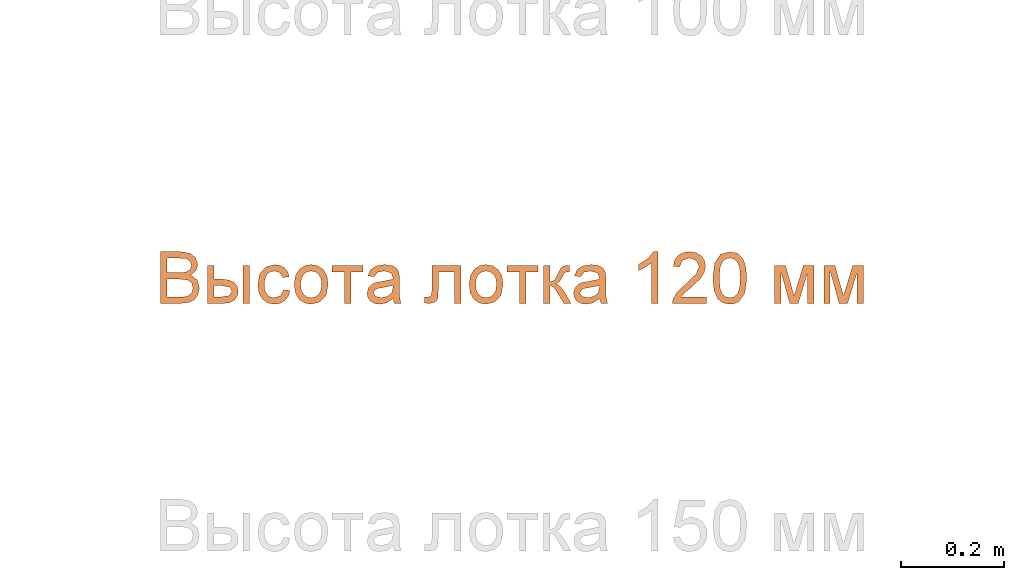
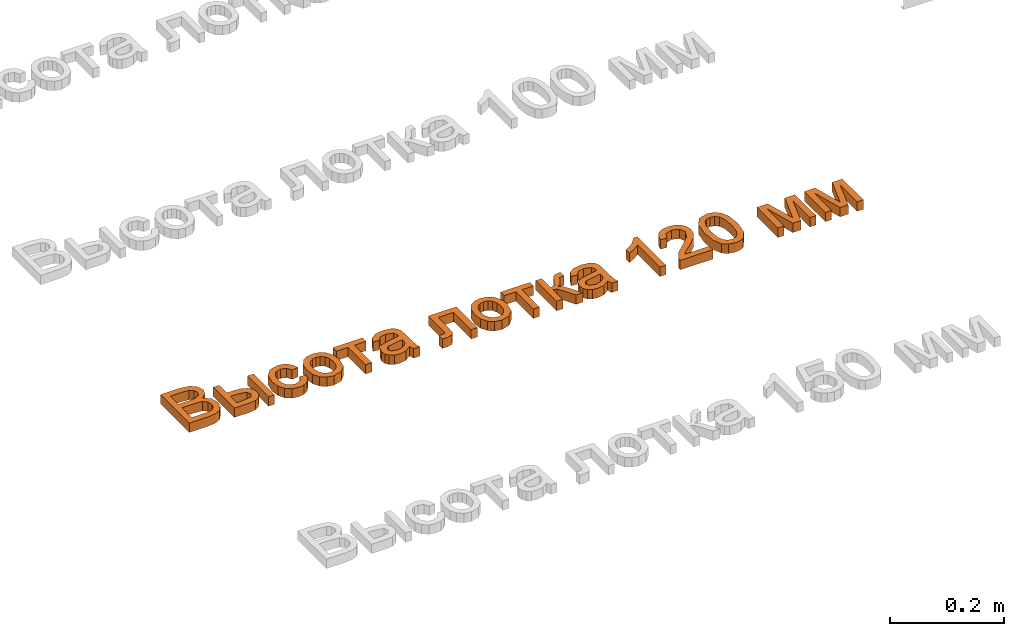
# One storey, part 17 of 71: 1 proxy.
"""IFC2X3 building model written with IfcOpenShell, lengths in millimetres."""

from ifc_helpers import new_model, entity, si_unit, converted_unit, derived_unit, direction, frame, frame_2d, origin, place, context, subcontext, project, spatial, polyline, rectangle, outline, extrude, element, save


model = new_model("IFC2X3")

# Units and contexts
model_context = context("Model", 3, precision=0.01, world=origin(), true_north=direction((6.12303176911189e-17, 1.0)))
body_context = subcontext(model_context, "Body", "Model", "MODEL_VIEW")
ifc_project = project(units=[si_unit("LENGTHUNIT", "METRE", prefix="MILLI"), si_unit("AREAUNIT", "SQUARE_METRE"), si_unit("VOLUMEUNIT", "CUBIC_METRE"), converted_unit("PLANEANGLEUNIT", "DEGREE", entity("IfcRatioMeasure", 0.0174532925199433), si_unit("PLANEANGLEUNIT", "RADIAN"), dimensions=[0, 0, 0, 0, 0, 0, 0]), si_unit("MASSUNIT", "GRAM", prefix="KILO"), derived_unit("MASSDENSITYUNIT", [(si_unit("MASSUNIT", "GRAM", prefix="KILO"), 1), (si_unit("LENGTHUNIT", "METRE"), -3)]), si_unit("TIMEUNIT", "SECOND"), si_unit("FREQUENCYUNIT", "HERTZ"), si_unit("THERMODYNAMICTEMPERATUREUNIT", "DEGREE_CELSIUS"), derived_unit("THERMALTRANSMITTANCEUNIT", [(si_unit("MASSUNIT", "GRAM", prefix="KILO"), 1), (si_unit("THERMODYNAMICTEMPERATUREUNIT", "KELVIN"), -1), (si_unit("TIMEUNIT", "SECOND"), -3)]), derived_unit("VOLUMETRICFLOWRATEUNIT", [(si_unit("LENGTHUNIT", "METRE"), 3), (si_unit("TIMEUNIT", "SECOND"), -1)]), si_unit("ELECTRICCURRENTUNIT", "AMPERE"), si_unit("ELECTRICVOLTAGEUNIT", "VOLT"), si_unit("POWERUNIT", "WATT"), si_unit("FORCEUNIT", "NEWTON", prefix="KILO"), si_unit("ILLUMINANCEUNIT", "LUX"), si_unit("LUMINOUSFLUXUNIT", "LUMEN"), si_unit("LUMINOUSINTENSITYUNIT", "CANDELA"), derived_unit("USERDEFINED", [(si_unit("MASSUNIT", "GRAM", prefix="KILO"), -1), (si_unit("LENGTHUNIT", "METRE"), -2), (si_unit("TIMEUNIT", "SECOND"), 3), (si_unit("LUMINOUSFLUXUNIT", "LUMEN"), 1)]), derived_unit("LINEARVELOCITYUNIT", [(si_unit("LENGTHUNIT", "METRE"), 1), (si_unit("TIMEUNIT", "SECOND"), -1)]), si_unit("PRESSUREUNIT", "PASCAL"), derived_unit("USERDEFINED", [(si_unit("LENGTHUNIT", "METRE"), -2), (si_unit("MASSUNIT", "GRAM", prefix="KILO"), 1), (si_unit("TIMEUNIT", "SECOND"), -2)])], contexts=[model_context])

# Site, building, storey
site_placement = place(None, origin())
site = spatial("IfcSite", under=ifc_project, at=site_placement, Name="Default", CompositionType="ELEMENT")
building_placement = place(site_placement, origin())
building = spatial("IfcBuilding", under=site, at=building_placement, Name="Наименование здания", CompositionType="ELEMENT")
storey_placement = place(building_placement, origin())
storey = spatial("IfcBuildingStorey", under=building, at=storey_placement, Name="Этаж 01", CompositionType="ELEMENT", Elevation=0.0)

# Proxy
proxy_placement = place(storey_placement, origin())
element("IfcBuildingElementProxy", 1, at=proxy_placement, inside=storey, Name="Текст модели:100 мм Arial", ObjectType="Текст модели:100 мм Arial", context=body_context, shape_type="SweptSolid", body=[
    extrude(outline(polyline([(-52.8068326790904, -48.6909338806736), (-14.7678343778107, -48.6909338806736), (1.33313427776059, -46.9618885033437), (12.2592295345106, -41.860591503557), (19.5800812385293, -32.2466086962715), (22.5353999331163, -18.7453394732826), (18.206655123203, -3.12261741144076), (5.83355735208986, 6.24611073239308), (16.0238886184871, 15.1365922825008), (19.3961402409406, 26.8720279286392), (15.3862264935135, 39.7233722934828), (4.30071570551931, 48.8100575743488), (-14.4735287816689, 51.7653762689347), (-52.8068326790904, 51.7653762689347), (-52.8068326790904, -48.6909338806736)]), holes=[polyline([(-40.2497939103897, 10.9550002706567), (-40.2497939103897, 39.208337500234), (-19.0597909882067, 39.208337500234), (-2.92203413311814, 37.8962250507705), (4.31297843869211, 33.0524454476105), (6.83910147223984, 24.8609396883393), (4.12903744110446, 16.6816966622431), (-3.92757825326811, 12.0341207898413), (-17.3184828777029, 10.9550002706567), (-40.2497939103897, 10.9550002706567)]), polyline([(-40.2497939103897, -36.1338951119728), (-40.2497939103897, -1.60203849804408), (-15.7243275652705, -1.60203849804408), (-0.211970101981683, -3.28203294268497), (7.57486546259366, -9.10683119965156), (9.97836116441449, -18.8679668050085), (7.93048472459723, -27.3292526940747), (2.70656039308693, -32.9087962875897), (-5.17837703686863, -35.6433857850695), (-14.4980542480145, -36.1338951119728), (-40.2497939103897, -36.1338951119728)])]), frame((5929.87567637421, -12937.8794073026, 0.0)), (0.0, 0.0, 1.0), 20.0),
    extrude(outline(polyline([(-42.39887158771, -34.5139341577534), (31.3737311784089, -34.5139341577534), (31.3737311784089, -3.73447389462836), (29.653882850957, 9.31613988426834), (24.4943378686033, 18.2526066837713), (16.9129030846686, 23.412151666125), (7.92738535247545, 25.1319999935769), (-1.9410491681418, 23.0810578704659), (-9.42438208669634, 16.928231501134), (-14.1424686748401, 6.98622058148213), (-15.7151642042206, -6.43227519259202), (-15.7151642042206, -21.9568953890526), (-42.39887158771, -21.9568953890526), (-42.39887158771, -34.5139341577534)]), holes=[polyline([(18.8166924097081, -21.9568953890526), (-3.15812543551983, -21.9568953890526), (-3.15812543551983, -7.41329384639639), (0.226388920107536, 8.88387853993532), (7.95191081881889, 12.5749612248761), (16.1802047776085, 7.5962915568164), (18.8166924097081, -9.05650009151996), (18.8166924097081, -21.9568953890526)])]), frame((6002.62130892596, -12955.1966100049, 0.0), z_axis=(0.0, 0.0, 1.0), x_axis=(0.0, -1.0, 0.0)), (0.0, 0.0, 1.0), 20.0),
    extrude(outline(polyline([(0.267683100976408, -20.7200562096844), (-4.02278247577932, -32.6253015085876), (7.51957889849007, -34.5647704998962), (18.0242916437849, -32.524098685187), (26.8500141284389, -26.8719753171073), (33.3554047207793, -17.9770896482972), (37.2076783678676, -4.95154901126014), (35.3403176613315, 7.71415747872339), (27.6846262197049, 19.1676933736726), (14.1719076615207, 28.5567222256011), (-6.16200624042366, 34.5864889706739), (-23.4110955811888, 30.2307841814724), (-35.130242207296, 17.0254849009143), (-38.5714296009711, 6.87231136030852), (-38.3156698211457, -2.77330902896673), (-34.4593562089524, -11.5597521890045), (-27.0988821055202, -19.1353940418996), (-20.0099089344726, -8.65257858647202), (-25.7552259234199, 0.80169796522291), (-23.980662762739, 11.2483121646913), (-18.9208808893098, 17.7794646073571), (-11.8538304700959, 21.4126833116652), (-2.81100512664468, 21.531205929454), (8.1761015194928, 17.5182701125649), (18.0468481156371, 10.9639331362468), (23.3470531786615, 3.65828147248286), (24.6053297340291, -4.0758667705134), (22.3502908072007, -11.9156934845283), (13.5558525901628, -20.7200562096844), (0.267683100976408, -20.7200562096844)])), frame((6097.30288009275, -12950.2595425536, 0.0), z_axis=(0.0, 0.0, -1.0), x_axis=(-0.45310996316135, -0.891454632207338, 0.0)), (0.0, 0.0, -1.0), 20.0),
    extrude(outline(polyline([(-2.34029740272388, -31.6984909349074), (14.2731811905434, -31.6984909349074), (27.1869525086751, -26.5873672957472), (35.9909592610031, -17.1811275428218), (40.2751441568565, -4.29577920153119), (38.1491713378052, 13.1690451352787), (27.2514955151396, 26.6485362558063), (5.67797919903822, 33.7446283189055), (-10.1280544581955, 33.6081083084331), (-22.8059382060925, 28.390056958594), (-31.6389568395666, 18.9754531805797), (-35.9103951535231, 6.2492758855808), (-35.5406401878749, -5.97109031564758), (-30.8535887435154, -16.7835237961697), (-19.5870121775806, -26.5692340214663), (-2.34029740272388, -31.6984909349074)]), holes=[polyline([(-0.642949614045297, -19.2566729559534), (-11.6948097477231, -16.2599663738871), (-19.0989004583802, -10.8341828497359), (-22.9822632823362, -3.6735675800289), (-23.4719397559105, 4.52763423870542), (-20.7783225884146, 12.2046648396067), (-15.0781786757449, 18.0357050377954), (-6.5660093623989, 21.2863283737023), (4.56368400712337, 21.2221083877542), (15.8675929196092, 18.1905150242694), (23.3961896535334, 12.7474982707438), (27.3267847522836, 5.59272509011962), (27.8366887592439, -2.57413755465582), (25.1317228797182, -10.3331599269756), (19.4311586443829, -16.1672368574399), (10.8134498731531, -19.3753979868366), (-0.642949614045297, -19.2566729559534)])]), frame((6167.77778019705, -12947.6561924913, 0.0), z_axis=(0.0, 0.0, 1.0), x_axis=(0.137105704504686, -0.990556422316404, 0.0)), (0.0, 0.0, 1.0), 20.0),
    extrude(outline(polyline([(-24.7216700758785, -29.8229670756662), (-12.1646313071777, -29.8229670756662), (-12.1646313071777, -6.27851938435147), (49.0509326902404, -6.27851938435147), (49.0509326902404, 6.27851938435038), (-12.1646313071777, 6.27851938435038), (-12.1646313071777, 29.8229670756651), (-24.7216700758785, 29.8229670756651), (-24.7216700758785, -29.8229670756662)])), frame((6239.65333814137, -12937.519408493, 0.0), z_axis=(0.0, 0.0, 1.0), x_axis=(0.0, -1.0, 0.0)), (0.0, 0.0, 1.0), 20.0),
    extrude(outline(polyline([(32.050823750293, 7.88266535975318), (41.9780345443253, 7.88266535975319), (45.9489188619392, 19.7953183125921), (35.1414436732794, 20.7608946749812), (14.2438893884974, 27.0545912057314), (-0.577126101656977, 31.9949297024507), (-11.1945882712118, 34.8877809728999), (-20.4974705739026, 33.9299602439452), (-28.5323068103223, 27.5470739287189), (-35.4619652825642, 13.8157249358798), (-38.3044049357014, -2.69989645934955), (-34.946215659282, -15.3493345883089), (-25.0306383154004, -24.3807697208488), (-19.5706723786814, -12.9644773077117), (-25.7868125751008, -4.50695904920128), (-24.0611841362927, 8.30922519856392), (-16.2279943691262, 20.3304570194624), (-6.33956174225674, 20.6794605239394), (-3.71040200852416, 19.7255176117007), (-6.50243004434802, -2.30048133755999), (-8.14662433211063, -13.2049019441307), (-7.01817966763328, -22.8490321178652), (-2.17478658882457, -31.1204151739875), (6.48825595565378, -36.5416029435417), (15.0010331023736, -37.7020395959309), (22.9495879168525, -35.3200906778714), (29.6378522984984, -29.3899394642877), (34.3697581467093, -19.9057692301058), (36.2737661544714, -6.36055543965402), (32.050823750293, 7.88266535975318)]), holes=[polyline([(8.22551784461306, 15.8244339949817), (11.5759514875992, 14.6300664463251), (20.1614376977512, 9.67421668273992), (24.4696920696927, -0.396473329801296), (23.3024692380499, -13.3987927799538), (17.249197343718, -22.9498553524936), (9.62153186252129, -24.3497471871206), (5.58084684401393, -21.1932043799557), (3.9870641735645, -15.5044472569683), (5.47226797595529, -4.61166010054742), (8.22551784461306, 15.8244339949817)])]), frame((6309.9390961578, -12949.2391985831, 0.0), z_axis=(0.0, 0.0, 1.0), x_axis=(0.316227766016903, -0.948683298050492, 0.0)), (0.0, 0.0, 1.0), 20.0),
    extrude(outline(polyline([(-49.3689973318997, 12.5447760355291), (-49.3689973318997, -43.9618984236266), (24.3300290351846, -43.9618984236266), (24.3300290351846, -31.4048596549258), (-36.811958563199, -31.4048596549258), (-36.811958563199, -0.0122627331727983), (-1.61791435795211, -0.0122627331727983), (14.6179443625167, 0.833865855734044), (21.4728122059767, 5.48144172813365), (24.4036054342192, 16.4688506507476), (23.7659433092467, 26.6714446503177), (11.8465666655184, 26.6714446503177), (11.8465666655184, 21.0551128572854), (11.0740144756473, 15.3774673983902), (8.62146784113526, 13.1088617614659), (-2.32915288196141, 12.5447760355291), (-49.3689973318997, 12.5447760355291)])), frame((6415.43961817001, -12962.1667357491, 0.0), z_axis=(0.0, 0.0, -1.0), x_axis=(0.0, -1.0, 0.0)), (0.0, 0.0, -1.0), 20.0),
    extrude(outline(polyline([(-2.34029740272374, -31.6984909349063), (14.2731811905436, -31.6984909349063), (27.1869525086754, -26.5873672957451), (35.9909592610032, -17.1811275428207), (40.2751441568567, -4.29577920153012), (38.1491713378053, 13.1690451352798), (27.2514955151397, 26.6485362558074), (5.67797919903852, 33.7446283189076), (-10.1280544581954, 33.6081083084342), (-22.8059382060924, 28.3900569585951), (-31.6389568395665, 18.9754531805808), (-35.910395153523, 6.24927588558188), (-35.5406401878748, -5.9710903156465), (-30.8535887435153, -16.7835237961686), (-19.5870121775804, -26.5692340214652), (-2.34029740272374, -31.6984909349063)]), holes=[polyline([(-0.642949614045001, -19.2566729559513), (-11.6948097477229, -16.2599663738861), (-19.0989004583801, -10.8341828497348), (-22.9822632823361, -3.67356758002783), (-23.4719397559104, 4.5276342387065), (-20.7783225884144, 12.2046648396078), (-15.0781786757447, 18.0357050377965), (-6.56600936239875, 21.2863283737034), (4.56368400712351, 21.2221083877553), (15.8675929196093, 18.1905150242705), (23.3961896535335, 12.7474982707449), (27.3267847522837, 5.59272509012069), (27.8366887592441, -2.57413755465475), (25.1317228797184, -10.3331599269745), (19.4311586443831, -16.1672368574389), (10.8134498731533, -19.3753979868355), (-0.642949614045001, -19.2566729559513)])]), frame((6506.81782695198, -12947.6561924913, 0.0), z_axis=(0.0, 0.0, 1.0), x_axis=(0.137105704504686, -0.990556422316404, 0.0)), (0.0, 0.0, 1.0), 20.0),
    extrude(outline(polyline([(-24.7216700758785, -29.8229670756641), (-12.1646313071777, -29.8229670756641), (-12.1646313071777, -6.27851938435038), (49.0509326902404, -6.27851938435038), (49.0509326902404, 6.27851938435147), (-12.1646313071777, 6.27851938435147), (-12.1646313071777, 29.8229670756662), (-24.7216700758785, 29.8229670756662), (-24.7216700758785, -29.8229670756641)])), frame((6578.6933848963, -12937.519408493, 0.0), z_axis=(0.0, 0.0, 1.0), x_axis=(0.0, -1.0, 0.0)), (0.0, 0.0, 1.0), 20.0),
    extrude(outline(polyline([(-30.3295712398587, -29.5353037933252), (43.4430315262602, -29.5353037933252), (43.4430315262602, -16.9782650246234), (8.91117491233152, -16.9782650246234), (11.2288314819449, -10.2337617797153), (20.8060260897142, -3.61188586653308), (43.4430315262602, 9.55828956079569), (43.4430315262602, 23.8321109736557), (20.3155167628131, 10.3921554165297), (10.0209522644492, 2.61758258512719), (5.13425309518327, -5.30414304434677), (0.756457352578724, 1.79597946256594), (-8.18307513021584, 6.86048826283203), (-16.4481572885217, 11.1769703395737), (-17.7725324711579, 17.3083369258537), (-17.6989560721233, 20.69285128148), (-30.3295712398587, 20.69285128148), (-30.3295712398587, 18.2893555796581), (-29.3730780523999, 9.10456843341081), (-25.681995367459, 4.05232236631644), (-14.3389671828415, -1.67437402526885), (-1.19331722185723, -8.56603006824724), (1.06302568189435, -16.9782650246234), (-30.3295712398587, -16.9782650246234), (-30.3295712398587, -29.5353037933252)])), frame((6649.03906468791, -12943.127309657, 0.0), z_axis=(0.0, 0.0, 1.0), x_axis=(0.0, -1.0, 0.0)), (0.0, 0.0, 1.0), 20.0),
    extrude(rectangle(XDim=73.7726027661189, YDim=12.5570387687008, at=frame_2d((-1.08357767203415e-12, 0.0), x_axis=(1.0, 0.0))), frame((6043.44960738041, -12949.6840398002, 0.0), z_axis=(0.0, 0.0, 1.0), x_axis=(0.0, -1.0, 0.0)), (0.0, 0.0, 1.0), 20.0),
    extrude(outline(polyline([(32.050823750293, 7.88266535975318), (41.9780345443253, 7.88266535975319), (45.9489188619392, 19.7953183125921), (35.1414436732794, 20.7608946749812), (14.2438893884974, 27.0545912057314), (-0.577126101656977, 31.9949297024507), (-11.1945882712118, 34.8877809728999), (-20.4974705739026, 33.9299602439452), (-28.532306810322, 27.54707392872), (-35.4619652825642, 13.8157249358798), (-38.3044049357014, -2.69989645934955), (-34.946215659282, -15.3493345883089), (-25.0306383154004, -24.3807697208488), (-19.5706723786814, -12.9644773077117), (-25.7868125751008, -4.50695904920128), (-24.0611841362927, 8.30922519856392), (-16.2279943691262, 20.3304570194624), (-6.33956174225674, 20.6794605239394), (-3.71040200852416, 19.7255176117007), (-6.50243004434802, -2.30048133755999), (-8.14662433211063, -13.2049019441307), (-7.01817966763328, -22.8490321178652), (-2.17478658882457, -31.1204151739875), (6.48825595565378, -36.5416029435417), (15.0010331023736, -37.7020395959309), (22.9495879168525, -35.3200906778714), (29.6378522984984, -29.3899394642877), (34.3697581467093, -19.9057692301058), (36.2737661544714, -6.36055543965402), (32.050823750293, 7.88266535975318)]), holes=[polyline([(8.22551784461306, 15.8244339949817), (11.5759514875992, 14.6300664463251), (20.1614376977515, 9.67421668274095), (24.4696920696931, -0.39647332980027), (23.3024692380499, -13.3987927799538), (17.249197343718, -22.9498553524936), (9.62153186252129, -24.3497471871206), (5.58084684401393, -21.1932043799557), (3.9870641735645, -15.5044472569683), (5.47226797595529, -4.61166010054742), (8.22551784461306, 15.8244339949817)])]), frame((6710.19470691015, -12949.2391985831, 0.0), z_axis=(0.0, 0.0, 1.0), x_axis=(0.316227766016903, -0.948683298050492, 0.0)), (0.0, 0.0, 1.0), 20.0),
    extrude(outline(polyline([(-63.8793021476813, -16.9184842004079), (36.577008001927, -16.9184842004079), (36.577008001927, -8.825080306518), (23.2106288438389, 2.34626961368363), (11.4629304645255, 20.7526321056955), (-0.407395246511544, 20.7526321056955), (5.93243780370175, 7.53340574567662), (14.4059864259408, -4.36144543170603), (-63.8793021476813, -4.36144543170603), (-63.8793021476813, -16.9184842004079)])), frame((6823.90308499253, -12922.6910390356, 0.0), z_axis=(0.0, 0.0, 1.0), x_axis=(0.0, 1.0, 0.0)), (0.0, 0.0, 1.0), 20.0),
    extrude(outline(polyline([(-32.3858783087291, -45.1669477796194), (-32.3858783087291, -57.7239865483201), (33.5385752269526, -57.7239865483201), (32.1896745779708, -49.0664969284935), (24.5622545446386, -35.7369059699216), (8.84143061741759, -21.1810416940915), (-12.8390816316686, -0.26081890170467), (-18.2592096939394, 13.9639515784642), (-13.1456499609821, 25.4786580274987), (0.208466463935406, 30.1752848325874), (14.1266686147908, 25.5890226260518), (19.411906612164, 12.909356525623), (31.9689453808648, 14.4789863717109), (28.9247218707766, 26.6252235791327), (22.3426998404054, 35.4973110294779), (12.566235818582, 40.9235704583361), (-0.0613136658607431, 42.7323236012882), (-12.7808336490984, 40.7212353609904), (-22.5389035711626, 34.6879706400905), (-28.746912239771, 25.6748617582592), (-30.8162484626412, 14.7242410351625), (-28.5844310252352, 2.81712712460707), (-21.1654774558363, -9.49465698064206), (-3.17604789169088, -26.6992716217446), (11.269451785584, -38.7780637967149), (16.9348345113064, -45.1669477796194), (-32.3858783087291, -45.1669477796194)])), frame((6902.61348164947, -12928.846354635, 0.0), z_axis=(0.0, 0.0, -1.0), x_axis=(-1.0, 0.0, 0.0)), (0.0, 0.0, -1.0), 20.0),
    extrude(outline(polyline([(-7.02884310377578, -33.3490673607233), (17.5323805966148, -33.3490673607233), (35.198417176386, -27.6137612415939), (43.3439841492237, -18.4876517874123), (47.0516941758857, -5.75150665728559), (46.7162020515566, 4.48638208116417), (43.4465778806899, 13.0955287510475), (27.9444305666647, 25.6659118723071), (-0.314338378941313, 32.2325535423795), (-24.0296505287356, 32.3678288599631), (-39.4143020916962, 28.0260881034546), (-49.7293680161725, 18.9002174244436), (-54.4436715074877, 4.63998875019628), (-50.8676582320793, -14.1301059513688), (-35.4058547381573, -26.7333390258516), (-7.02884310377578, -33.3490673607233)]), holes=[polyline([(-5.77428774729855, -20.8548320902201), (-25.0157644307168, -17.3562860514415), (-36.7257089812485, -11.571792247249), (-41.0962588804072, -4.77599682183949), (-41.9669219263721, 3.21464792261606), (-39.2244253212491, 11.2791292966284), (-32.8654063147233, 17.2229259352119), (-20.9698370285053, 20.2947501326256), (-1.61768958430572, 19.7433141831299), (17.8514140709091, 16.2707701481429), (28.7803640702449, 10.7141596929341), (33.5546988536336, 3.61815959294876), (34.5599568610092, -4.47255337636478), (31.9421230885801, -12.1923199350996), (25.847182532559, -18.1754808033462), (14.0250679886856, -21.4027476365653), (-5.77428774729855, -20.8548320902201)])]), frame((6981.44793629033, -12940.747164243, 0.0), z_axis=(0.0, 0.0, 1.0), x_axis=(0.101851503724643, -0.994799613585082, 0.0)), (0.0, 0.0, 1.0), 20.0),
    extrude(outline(polyline([(-40.5839870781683, -38.4502715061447), (33.1886156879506, -38.4502715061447), (33.1886156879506, -25.8932327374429), (-29.0570178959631, -25.8932327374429), (33.1886156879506, -8.6273044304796), (33.1886156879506, 7.85380895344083), (-26.2120637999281, 25.9045521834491), (33.1886156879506, 25.9045521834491), (33.1886156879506, 38.4615909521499), (-40.5839870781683, 38.4615909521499), (-40.5839870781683, 17.7620973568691), (18.4733358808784, -0.190544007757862), (-40.5839870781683, -16.8433356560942), (-40.5839870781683, -38.4502715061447)])), frame((7105.2985385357, -12953.3817254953, 0.0), z_axis=(0.0, 0.0, 1.0), x_axis=(0.0, -1.0, 0.0)), (0.0, 0.0, 1.0), 20.0),
    extrude(outline(polyline([(-40.5839870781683, -38.4502715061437), (33.1886156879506, -38.4502715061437), (33.1886156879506, -25.8932327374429), (-29.0570178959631, -25.8932327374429), (33.1886156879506, -8.62730443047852), (33.1886156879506, 7.85380895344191), (-26.2120637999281, 25.9045521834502), (33.1886156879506, 25.9045521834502), (33.1886156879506, 38.461590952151), (-40.5839870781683, 38.461590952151), (-40.5839870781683, 17.7620973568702), (18.4733358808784, -0.190544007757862), (-40.5839870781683, -16.8433356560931), (-40.5839870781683, -38.4502715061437)])), frame((7201.04595914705, -12953.3817254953, 0.0), z_axis=(0.0, 0.0, 1.0), x_axis=(0.0, -1.0, 0.0)), (0.0, 0.0, 1.0), 20.0),
])

save(model, "model.ifc")
